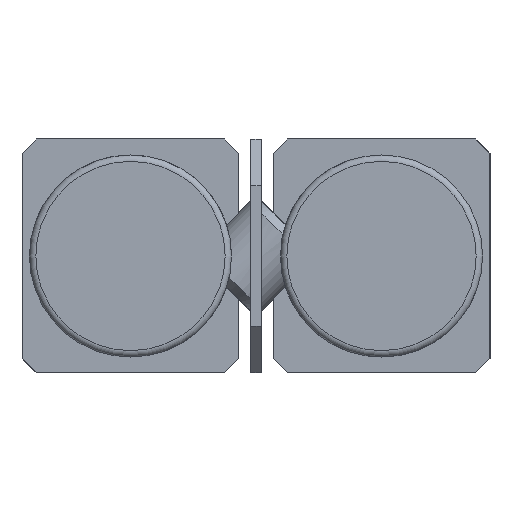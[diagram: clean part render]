
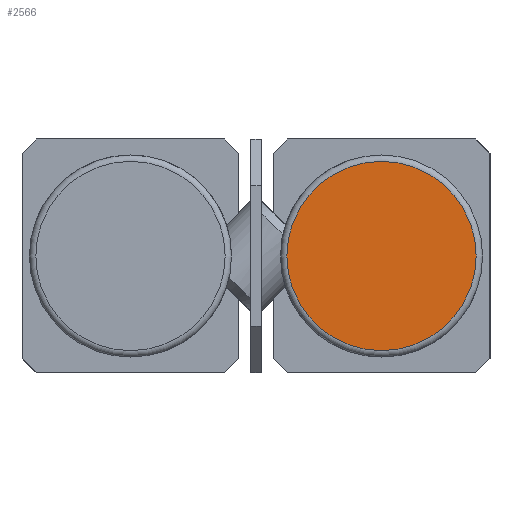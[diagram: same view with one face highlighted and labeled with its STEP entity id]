
A CAD part, left-side view. The second image highlights one B-rep face of the part: STEP entity #2566.
In plain terms, the highlighted planar face has unit normal (-1, 0, 0).
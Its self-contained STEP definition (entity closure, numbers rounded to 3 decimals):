
#134=CIRCLE('',#2775,4.45);
#303=ORIENTED_EDGE('',*,*,#939,.T.);
#939=EDGE_CURVE('',#1269,#1269,#134,.T.);
#1269=VERTEX_POINT('',#3882);
#2001=EDGE_LOOP('',(#303));
#2239=FACE_BOUND('',#2001,.T.);
#2451=PLANE('',#2776);
#2566=ADVANCED_FACE('',(#2239),#2451,.F.);
#2775=AXIS2_PLACEMENT_3D('',#3881,#3122,#3123);
#2776=AXIS2_PLACEMENT_3D('',#3883,#3124,#3125);
#3122=DIRECTION('',(-1.,0.,0.));
#3123=DIRECTION('',(0.,0.,1.));
#3124=DIRECTION('',(1.,0.,0.));
#3125=DIRECTION('',(0.,0.,-1.));
#3881=CARTESIAN_POINT('',(0.,-5.9,0.));
#3882=CARTESIAN_POINT('',(0.,-5.9,4.45));
#3883=CARTESIAN_POINT('',(0.,-10.35,0.));
